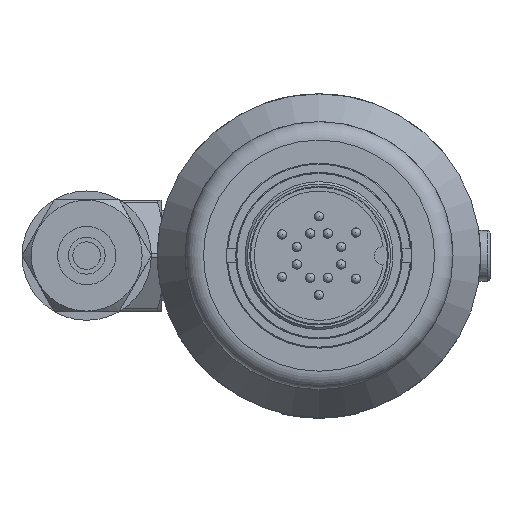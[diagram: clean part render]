
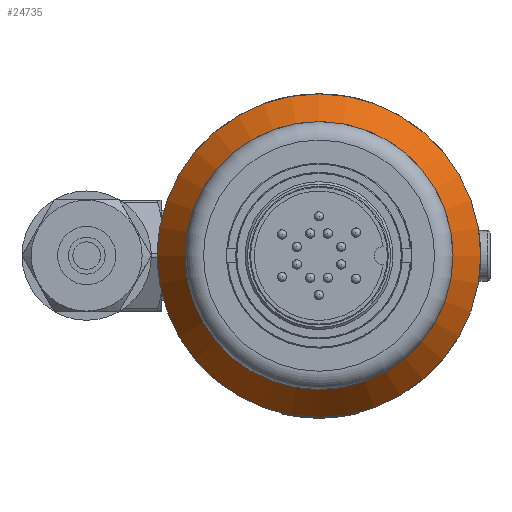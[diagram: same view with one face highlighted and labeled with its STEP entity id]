
A CAD part, left-side view. The second image highlights one B-rep face of the part: STEP entity #24735.
In plain terms, the highlighted conical face has half-angle 33.69 degrees and reference radius 17.5 mm.
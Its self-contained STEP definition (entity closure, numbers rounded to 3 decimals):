
#6830=FACE_BOUND('',#9056,.T.);
#7382=FACE_OUTER_BOUND('',#9055,.T.);
#9055=EDGE_LOOP('',(#18138));
#9056=EDGE_LOOP('',(#18139));
#10814=CIRCLE('',#26572,14.5);
#10815=CIRCLE('',#26573,17.5);
#11611=VERTEX_POINT('',#39764);
#11612=VERTEX_POINT('',#39766);
#14165=EDGE_CURVE('',#11611,#11611,#10814,.T.);
#14166=EDGE_CURVE('',#11612,#11612,#10815,.T.);
#18138=ORIENTED_EDGE('',*,*,#14165,.F.);
#18139=ORIENTED_EDGE('',*,*,#14166,.T.);
#24424=CONICAL_SURFACE('',#26571,17.5,0.588);
#24735=ADVANCED_FACE('',(#7382,#6830),#24424,.T.);
#26571=AXIS2_PLACEMENT_3D('',#39763,#30768,#30769);
#26572=AXIS2_PLACEMENT_3D('',#39765,#30770,#30771);
#26573=AXIS2_PLACEMENT_3D('',#39767,#30772,#30773);
#30768=DIRECTION('center_axis',(1.,0.,0.));
#30769=DIRECTION('ref_axis',(0.,0.,-1.));
#30770=DIRECTION('center_axis',(-1.,0.,0.));
#30771=DIRECTION('ref_axis',(0.,0.,1.));
#30772=DIRECTION('center_axis',(-1.,0.,0.));
#30773=DIRECTION('ref_axis',(0.,0.,1.));
#39763=CARTESIAN_POINT('Origin',(10.,0.,0.));
#39764=CARTESIAN_POINT('',(5.5,0.,-14.5));
#39765=CARTESIAN_POINT('Origin',(5.5,0.,0.));
#39766=CARTESIAN_POINT('',(10.,0.,-17.5));
#39767=CARTESIAN_POINT('Origin',(10.,0.,0.));
